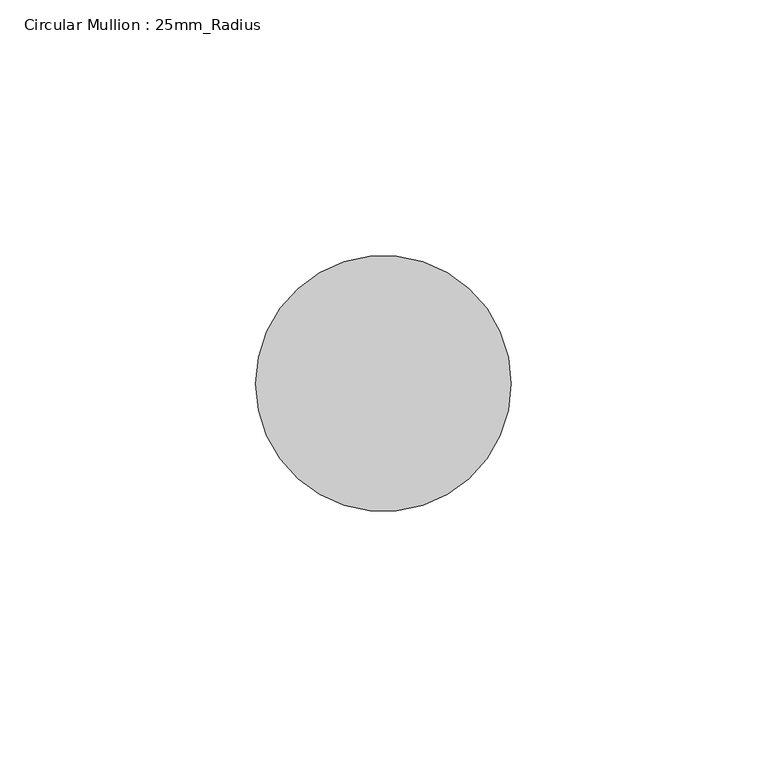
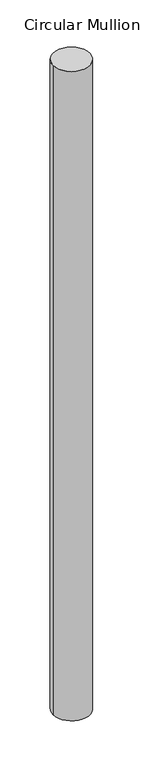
"""IFC4 building model written with IfcOpenShell, lengths in millimetres: member geometry, Circular Mullion : 25mm_Radius."""

from ifc_helpers import new_model, si_unit, point, frame, origin, origin_2d, place, context, project, spatial, circle_curve, trimmed, segment, composite_curve, outline, extrude, source, transform, mapped, element, save


def circular_mullion_25mm_radius_664e1184(model_context):
    return source(origin(), model_context, "Body", "SweptSolid", [
        extrude(outline(composite_curve([segment(trimmed(circle_curve(origin_2d(), 25.0), [point((25.0, 0.0))], [point((-25.0, 0.0))], False, "CARTESIAN"), True, "CONTINUOUS"), segment(trimmed(circle_curve(origin_2d(), 25.0), [point((-25.0, 0.0))], [point((25.0, 0.0))], False, "CARTESIAN"), True, "CONTINUOUS")], self_intersect=False)), frame((0.0, 0.0, -930.0), z_axis=(0.0, 0.0, 1.0), x_axis=(1.0, 0.0, 0.0)), (0.0, 0.0, 1.0), 930.0),
    ])


if __name__ == "__main__":
    model = new_model("IFC4")
    model_context = context("Model", 3, world=origin())
    ifc_project = project(units=[si_unit("LENGTHUNIT", "METRE", prefix="MILLI")], contexts=[model_context])
    site = spatial("IfcSite", under=ifc_project)
    building = spatial("IfcBuilding", under=site)
    placement = place(None, origin())
    circular_mullion_25mm_radius_shape = circular_mullion_25mm_radius_664e1184(model_context)
    element("IfcMember", 1, ObjectType="Circular Mullion : 25mm_Radius", at=placement, inside=building, context=model_context, shape_type="MappedRepresentation", body=[
        mapped(circular_mullion_25mm_radius_shape, transform((0.0, 0.0, 0.0), x_axis=(1.0, 0.0, 0.0), y_axis=(0.0, 1.0, 0.0), z_axis=(0.0, 0.0, 1.0))),
    ])
    save(model, "model.ifc")
